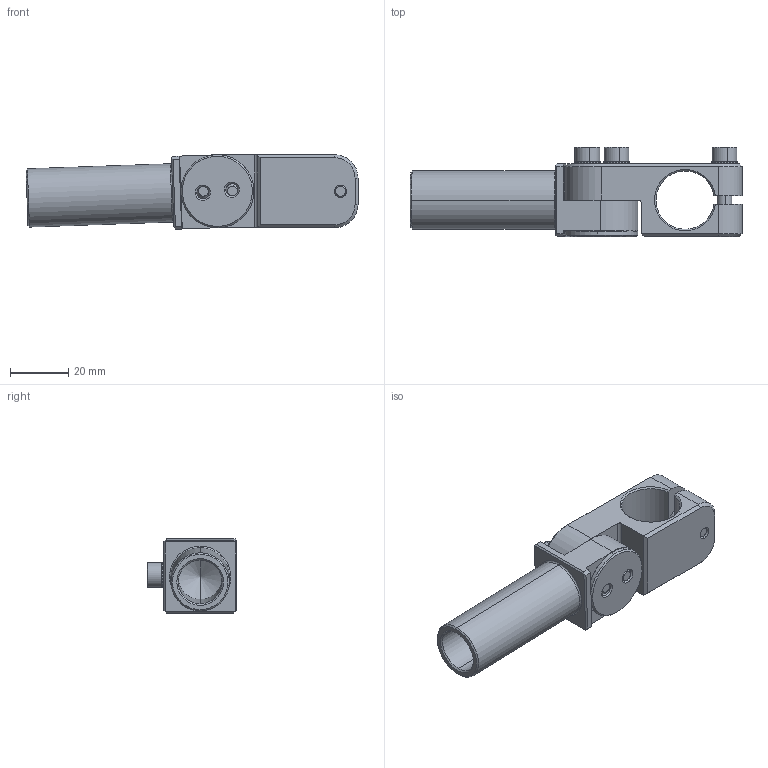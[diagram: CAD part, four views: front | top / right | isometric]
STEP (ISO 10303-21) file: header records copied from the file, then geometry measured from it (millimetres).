
FILE_DESCRIPTION (( 'STEP AP214' ), '1' );
FILE_NAME ('SEAH-2020L50.STEP', '2019-11-11T03:24:06', ( '微软用户' ), ( '微软中国' ), 'SwSTEP 2.0', 'SolidWorks 2016', '' );
FILE_SCHEMA (( 'AUTOMOTIVE_DESIGN' ));
Length unit declared in the file: millimetre
Products named in the file (1): SEAH-2020L50
Bounding box: 113.8 x 30.6 x 25.52 mm (x, y, z)
Volume: 36972.2 mm3; surface area: 20220.6 mm2
Topology: 9 solids, 9 shells, 761 faces, 2139 edges, 1397 vertices
Faces by surface type: plane 648, cylinder 58, cone 45, bspline 10
Entity records: 34033 total; most frequent: CARTESIAN_POINT 5309, DIRECTION 4334, ORIENTED_EDGE 4274, EDGE_CURVE 2137, AXIS2_PLACEMENT_3D 1469, VERTEX_POINT 1397, LINE 1396, VECTOR 1396
